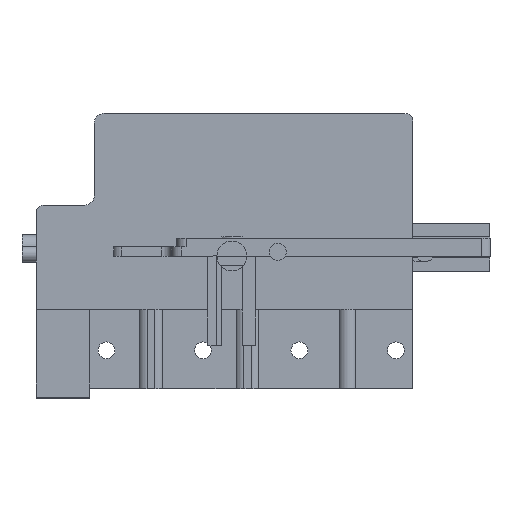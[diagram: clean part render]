
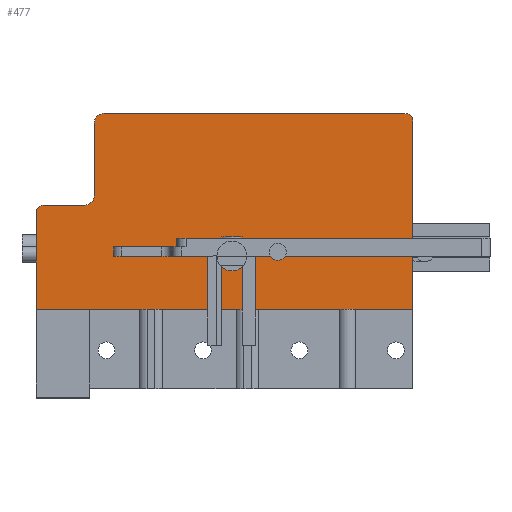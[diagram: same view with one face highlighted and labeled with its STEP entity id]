
A CAD part, front view. The second image highlights one B-rep face of the part: STEP entity #477.
In plain terms, the highlighted planar face has unit normal (0, -1, 0).
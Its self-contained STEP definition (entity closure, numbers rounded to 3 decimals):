
#477 = ADVANCED_FACE( '', ( #639 ), #640, .F. );
#639 = FACE_OUTER_BOUND( '', #1019, .T. );
#640 = PLANE( '', #1020 );
#1019 = EDGE_LOOP( '', ( #1425, #1426, #1427, #1428, #1429, #1430, #1431, #1432, #1433, #1434 ) );
#1020 = AXIS2_PLACEMENT_3D( '', #1435, #1436, #1437 );
#1425 = ORIENTED_EDGE( '', *, *, #2593, .T. );
#1426 = ORIENTED_EDGE( '', *, *, #2594, .T. );
#1427 = ORIENTED_EDGE( '', *, *, #2595, .T. );
#1428 = ORIENTED_EDGE( '', *, *, #2596, .F. );
#1429 = ORIENTED_EDGE( '', *, *, #2591, .F. );
#1430 = ORIENTED_EDGE( '', *, *, #2589, .F. );
#1431 = ORIENTED_EDGE( '', *, *, #2597, .T. );
#1432 = ORIENTED_EDGE( '', *, *, #2598, .F. );
#1433 = ORIENTED_EDGE( '', *, *, #2599, .F. );
#1434 = ORIENTED_EDGE( '', *, *, #2600, .T. );
#1435 = CARTESIAN_POINT( '', ( 57.707, -1.9, 29.55 ) );
#1436 = DIRECTION( '', ( 0., 1., 0. ) );
#1437 = DIRECTION( '', ( 0., 0., 1. ) );
#2589 = EDGE_CURVE( '', #2963, #2965, #2966, .T. );
#2591 = EDGE_CURVE( '', #2965, #2968, #2969, .T. );
#2593 = EDGE_CURVE( '', #2971, #2972, #2973, .T. );
#2594 = EDGE_CURVE( '', #2972, #2974, #2975, .F. );
#2595 = EDGE_CURVE( '', #2974, #2976, #2977, .T. );
#2596 = EDGE_CURVE( '', #2968, #2976, #2978, .F. );
#2597 = EDGE_CURVE( '', #2963, #2979, #2980, .T. );
#2598 = EDGE_CURVE( '', #2981, #2979, #2982, .T. );
#2599 = EDGE_CURVE( '', #2983, #2981, #2984, .T. );
#2600 = EDGE_CURVE( '', #2983, #2971, #2985, .F. );
#2963 = VERTEX_POINT( '', #3588 );
#2965 = VERTEX_POINT( '', #3591 );
#2966 = CIRCLE( '', #3592, 2. );
#2968 = VERTEX_POINT( '', #3595 );
#2969 = LINE( '', #3596, #3597 );
#2971 = VERTEX_POINT( '', #3600 );
#2972 = VERTEX_POINT( '', #3601 );
#2973 = LINE( '', #3602, #3603 );
#2974 = VERTEX_POINT( '', #3604 );
#2975 = CIRCLE( '', #3605, 2. );
#2976 = VERTEX_POINT( '', #3606 );
#2977 = LINE( '', #3607, #3608 );
#2978 = CIRCLE( '', #3609, 2. );
#2979 = VERTEX_POINT( '', #3610 );
#2980 = LINE( '', #3611, #3612 );
#2981 = VERTEX_POINT( '', #3613 );
#2982 = LINE( '', #3614, #3615 );
#2983 = VERTEX_POINT( '', #3616 );
#2984 = LINE( '', #3617, #3618 );
#2985 = CIRCLE( '', #3619, 2. );
#3588 = CARTESIAN_POINT( '', ( -40.497, -1.9, 9.604 ) );
#3591 = CARTESIAN_POINT( '', ( -38.797, -1.9, 10.55 ) );
#3592 = AXIS2_PLACEMENT_3D( '', #4443, #4444, #4445 );
#3595 = CARTESIAN_POINT( '', ( -30.497, -1.9, 10.55 ) );
#3596 = CARTESIAN_POINT( '', ( -28.497, -1.9, 10.55 ) );
#3597 = VECTOR( '', #4447, 1000. );
#3600 = CARTESIAN_POINT( '', ( 35.803, -1.9, 29.55 ) );
#3601 = CARTESIAN_POINT( '', ( -26.497, -1.9, 29.55 ) );
#3602 = CARTESIAN_POINT( '', ( 57.707, -1.9, 29.55 ) );
#3603 = VECTOR( '', #4449, 1000. );
#3604 = CARTESIAN_POINT( '', ( -28.497, -1.9, 27.55 ) );
#3605 = AXIS2_PLACEMENT_3D( '', #4450, #4451, #4452 );
#3606 = CARTESIAN_POINT( '', ( -28.497, -1.9, 12.55 ) );
#3607 = CARTESIAN_POINT( '', ( -28.497, -1.9, 29.55 ) );
#3608 = VECTOR( '', #4453, 1000. );
#3609 = AXIS2_PLACEMENT_3D( '', #4454, #4455, #4456 );
#3610 = CARTESIAN_POINT( '', ( -40.497, -1.9, -11.05 ) );
#3611 = CARTESIAN_POINT( '', ( -40.497, -1.9, 29.55 ) );
#3612 = VECTOR( '', #4457, 1000. );
#3613 = CARTESIAN_POINT( '', ( 37.503, -1.9, -11.05 ) );
#3614 = CARTESIAN_POINT( '', ( 57.707, -1.9, -11.05 ) );
#3615 = VECTOR( '', #4458, 1000. );
#3616 = CARTESIAN_POINT( '', ( 37.503, -1.9, 28.604 ) );
#3617 = CARTESIAN_POINT( '', ( 37.503, -1.9, -27.55 ) );
#3618 = VECTOR( '', #4459, 1000. );
#3619 = AXIS2_PLACEMENT_3D( '', #4460, #4461, #4462 );
#4443 = CARTESIAN_POINT( '', ( -38.797, -1.9, 8.55 ) );
#4444 = DIRECTION( '', ( 0., 1., 0. ) );
#4445 = DIRECTION( '', ( 0., 0., 1. ) );
#4447 = DIRECTION( '', ( 1., 0., 0. ) );
#4449 = DIRECTION( '', ( -1., 0., 0. ) );
#4450 = CARTESIAN_POINT( '', ( -26.497, -1.9, 27.55 ) );
#4451 = DIRECTION( '', ( 0., 1., 0. ) );
#4452 = DIRECTION( '', ( 0., 0., 1. ) );
#4453 = DIRECTION( '', ( 0., 0., -1. ) );
#4454 = CARTESIAN_POINT( '', ( -30.497, -1.9, 12.55 ) );
#4455 = DIRECTION( '', ( 0., 1., 0. ) );
#4456 = DIRECTION( '', ( 0., 0., 1. ) );
#4457 = DIRECTION( '', ( 0., 0., -1. ) );
#4458 = DIRECTION( '', ( -1., 0., 0. ) );
#4459 = DIRECTION( '', ( 0., 0., -1. ) );
#4460 = CARTESIAN_POINT( '', ( 35.803, -1.9, 27.55 ) );
#4461 = DIRECTION( '', ( 0., 1., 0. ) );
#4462 = DIRECTION( '', ( 0., 0., 1. ) );
